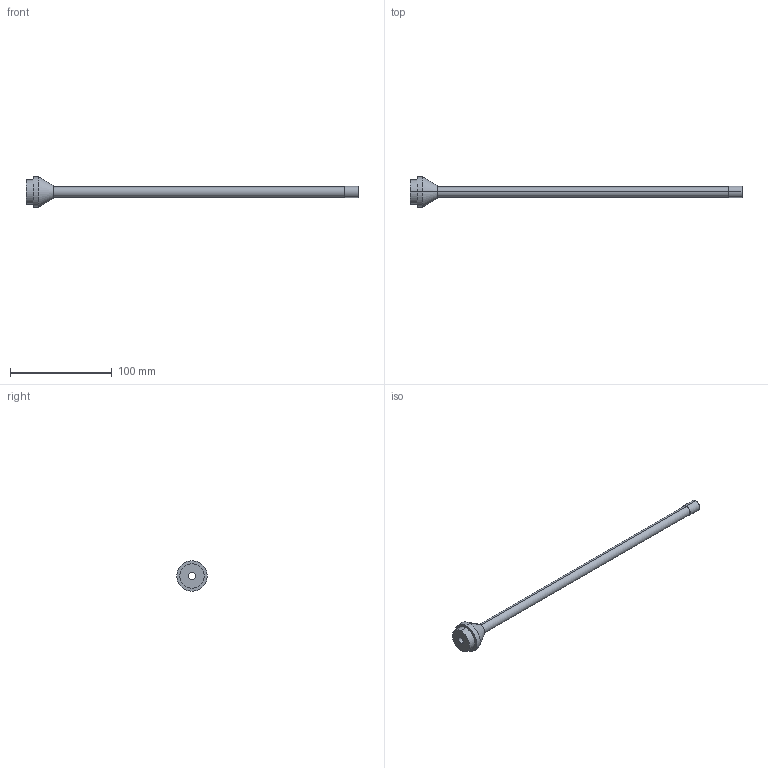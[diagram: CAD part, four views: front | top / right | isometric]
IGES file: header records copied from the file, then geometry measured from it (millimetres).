
Start section: SolidWorks IGES FILE using analytic representation for surfaces
Global section: file name: \\intra-srv04\開発データ\CAD_Data\CAD委員会\3D電子ｶﾀﾛｸﾞ\製品カタログ（新）\0_IGES\ER-AD30.IGS,41HSolidWorks 2004; native system: by SolidWorks Corporation; preprocessor: Version 5.3; author: mf1158; date: 050905.110225; units: millimetre
Bounding box: 327 x 30 x 30 mm (x, y, z)
Volume: 23406.4 mm3; surface area: 19585.8 mm2
Topology: 1 solids, 1 shells, 17 faces, 34 edges, 22 vertices
Faces by surface type: revolution 12, plane 5
